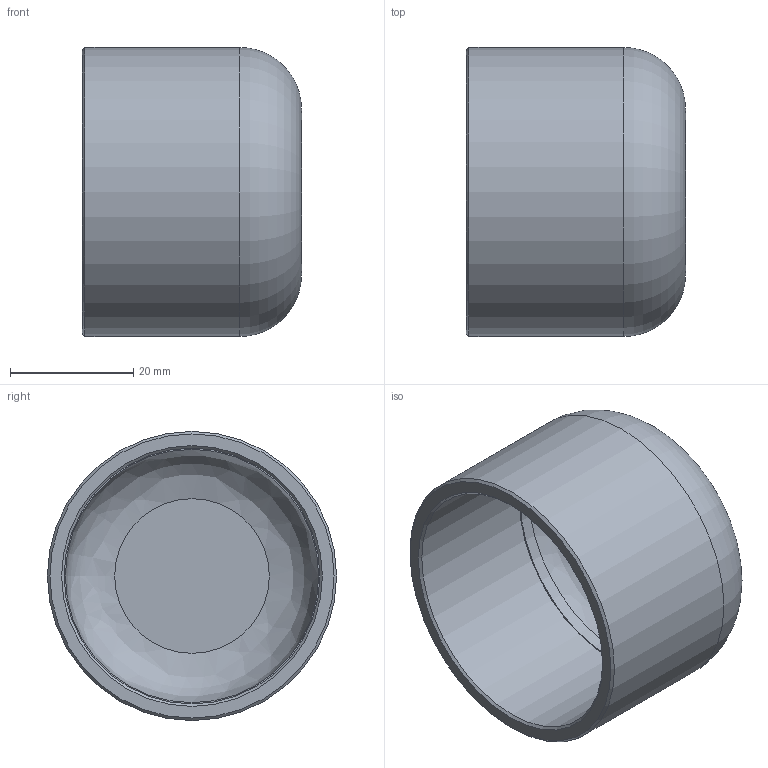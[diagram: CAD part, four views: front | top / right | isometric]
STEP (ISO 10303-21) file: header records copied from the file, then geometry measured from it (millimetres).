
FILE_DESCRIPTION((''),'2;1');
FILE_NAME('G:\SANHA-Ternat\Technik\Management\Bouwmaten + markeringen\z-maattekeningen 3D\29000s\29301158_3d.stp','2017-08-04T13:32:39',('vdvijverd'),(''),'Autodesk Inventor 2009','Autodesk Inventor 2009','');
FILE_SCHEMA(('AUTOMOTIVE_DESIGN { 1 0 10303 214 1 1 1 1 }'));
Length unit declared in the file: millimetre
Products named in the file (1): 29301158_3d
Bounding box: 35.5 x 46.85 x 46.85 mm (x, y, z)
Volume: 15941.2 mm3; surface area: 11720.3 mm2
Topology: 1 solids, 1 shells, 11 faces, 17 edges, 10 vertices
Faces by surface type: plane 4, cylinder 3, cone 2, bspline 1, torus 1
Full cylindrical faces by diameter (mm): 41.055 x1, 41.455 x1, 46.855 x1
Entity records: 280 total; most frequent: CARTESIAN_POINT 76, DIRECTION 42, AXIS2_PLACEMENT_3D 21, ORIENTED_EDGE 20, EDGE_LOOP 20, FACE_OUTER_BOUND 11, ADVANCED_FACE 11, VERTEX_POINT 10
